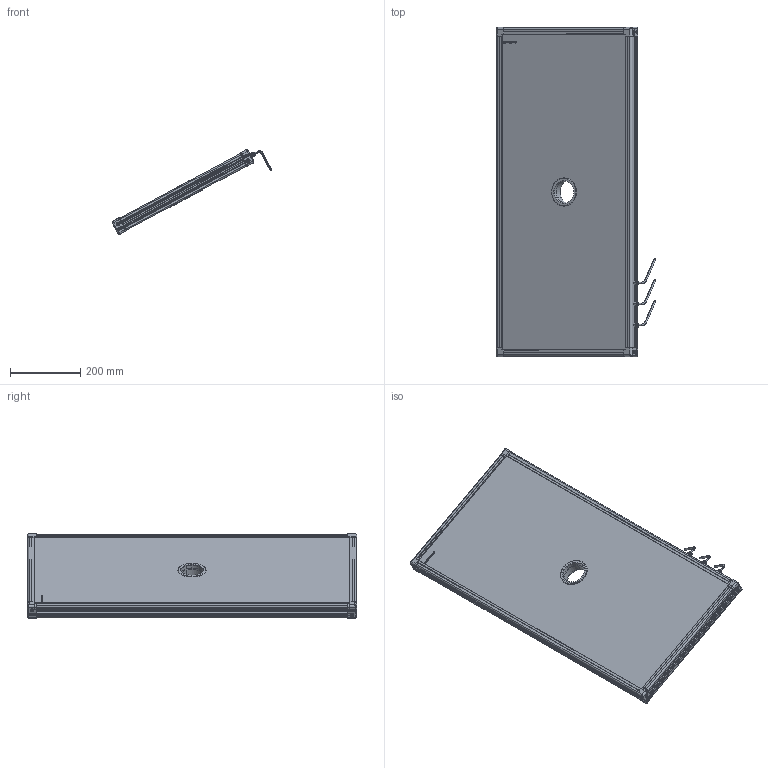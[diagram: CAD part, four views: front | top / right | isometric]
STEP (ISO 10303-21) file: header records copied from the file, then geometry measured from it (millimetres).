
FILE_DESCRIPTION (( 'STEP AP214' ), '1' );
FILE_NAME ('EFFI-FD-400-900-ZZZ-3M12.STEP', '2021-06-24T07:53:45', ( '' ), ( '' ), 'SwSTEP 2.0', 'SolidWorks 2021', '' );
FILE_SCHEMA (( 'AUTOMOTIVE_DESIGN' ));
Length unit declared in the file: millimetre
Products named in the file (13): petite joue; petite joue + vis; 000590; profile X_PERCE; Pièce13^EFFI-FD-XXX-YYY-ZZZ (3 connecteurs) Ø65; 004409; Assemblage Ø65; cordon_Avec cable; EFFI-FD-400-900-ZZZ-3M12; 004408; 000629; profile Y_PERCE
Assembly tree (21 placements, depth 3):
  EFFI-FD-400-900-ZZZ-3M12
    profile X_PERCE  x2
    profile Y_PERCE
    profile Y_PERCE
    Pièce13^EFFI-FD-XXX-YYY-ZZZ (3 connecteurs) Ø65
    petite joue + vis  x4
      petite joue
      000629
    Assemblage Ø65
      004408
      004409
      000590  x3
    cordon_Avec cable  x3
Bounding box: 454.52 x 939 x 241.05 mm (x, y, z)
Volume: 14179751 mm3; surface area: 1266981.5 mm2
Topology: 22 solids, 40 shells, 4128 faces, 10950 edges, 7183 vertices
Faces by surface type: plane 2537, cylinder 761, bspline 609, cone 158, torus 55, sphere 8
Entity records: 57340 total; most frequent: CARTESIAN_POINT 22845, ORIENTED_EDGE 7186, DIRECTION 5938, EDGE_CURVE 3597, LINE 2502, VECTOR 2502, VERTEX_POINT 2364, AXIS2_PLACEMENT_3D 1718
